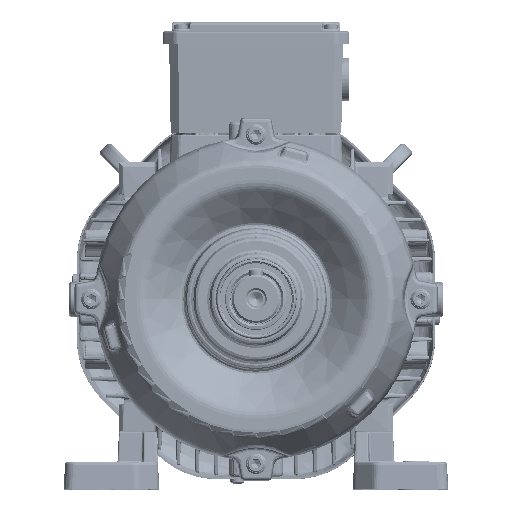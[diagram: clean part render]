
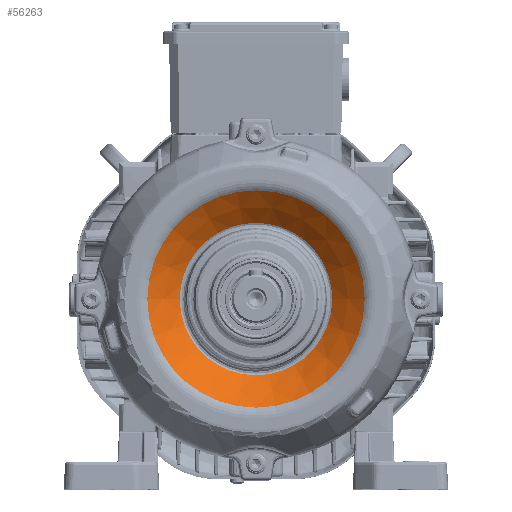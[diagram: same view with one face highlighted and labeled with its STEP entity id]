
A CAD part, top view. The second image highlights one B-rep face of the part: STEP entity #56263.
In plain terms, the highlighted conical face has half-angle 50 degrees and reference radius 63.683 mm.
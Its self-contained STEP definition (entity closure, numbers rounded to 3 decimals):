
#47594=CONICAL_SURFACE('',#212117,63.683,50.);
#56263=ADVANCED_FACE('',(#69273,#69274),#47594,.F.);
#69273=FACE_BOUND('',#76511,.T.);
#69274=FACE_BOUND('',#76512,.T.);
#76511=EDGE_LOOP('',(#110961));
#76512=EDGE_LOOP('',(#110962));
#110961=ORIENTED_EDGE('',*,*,#174126,.F.);
#110962=ORIENTED_EDGE('',*,*,#174130,.T.);
#151698=VERTEX_POINT('',#336640);
#151701=VERTEX_POINT('',#336667);
#174126=EDGE_CURVE('',#151698,#151698,#195658,.T.);
#174130=EDGE_CURVE('',#151701,#151701,#195660,.T.);
#195658=CIRCLE('',#212112,44.7);
#195660=CIRCLE('',#212116,63.683);
#212112=AXIS2_PLACEMENT_3D('',#336639,#250183,#250184);
#212116=AXIS2_PLACEMENT_3D('',#336666,#250191,#250192);
#212117=AXIS2_PLACEMENT_3D('',#336668,#250193,#250194);
#250183=DIRECTION('',(0.,0.,1.));
#250184=DIRECTION('',(-1.,0.,0.));
#250191=DIRECTION('',(0.,0.,1.));
#250192=DIRECTION('',(1.,0.,0.));
#250193=DIRECTION('',(0.,0.,1.));
#250194=DIRECTION('',(1.,0.,0.));
#336639=CARTESIAN_POINT('',(0.,0.,31.732));
#336640=CARTESIAN_POINT('',(-44.7,0.,31.732));
#336666=CARTESIAN_POINT('',(0.,0.,47.66));
#336667=CARTESIAN_POINT('',(63.683,0.,47.66));
#336668=CARTESIAN_POINT('',(0.,0.,47.66));
